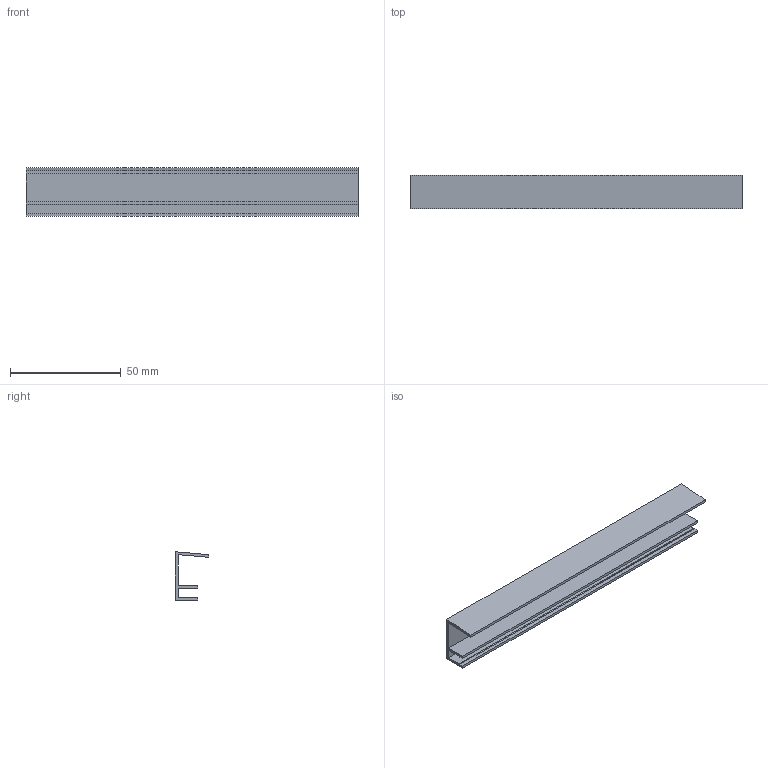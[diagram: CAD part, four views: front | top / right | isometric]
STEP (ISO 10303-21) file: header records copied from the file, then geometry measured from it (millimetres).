
FILE_DESCRIPTION (( 'STEP AP203' ), '1' );
FILE_NAME ('2000793 Octopus Sockelprofil clipsen.STEP', '2021-01-28T05:55:40', ( '' ), ( '' ), 'SwSTEP 2.0', 'SolidWorks 2018', '' );
FILE_SCHEMA (( 'CONFIG_CONTROL_DESIGN' ));
Length unit declared in the file: millimetre
Products named in the file (1): 2000793 Octopus Sockelprofil clipsen
Bounding box: 150 x 15 x 21.91 mm (x, y, z)
Volume: 9697.2 mm3; surface area: 16688.5 mm2
Topology: 1 solids, 1 shells, 19 faces, 51 edges, 34 vertices
Faces by surface type: plane 16, cylinder 3
Entity records: 668 total; most frequent: CARTESIAN_POINT 105, ORIENTED_EDGE 102, DIRECTION 97, EDGE_CURVE 51, LINE 45, VECTOR 45, VERTEX_POINT 34, AXIS2_PLACEMENT_3D 26
